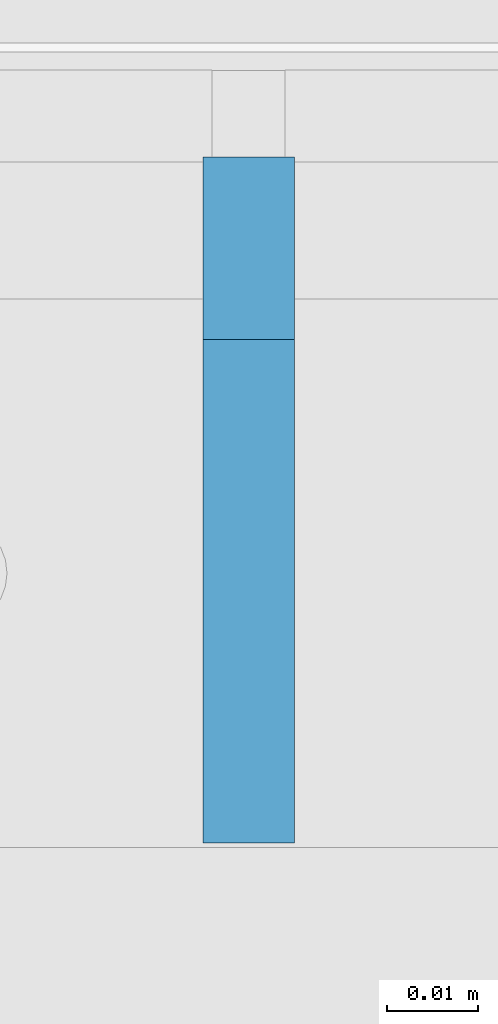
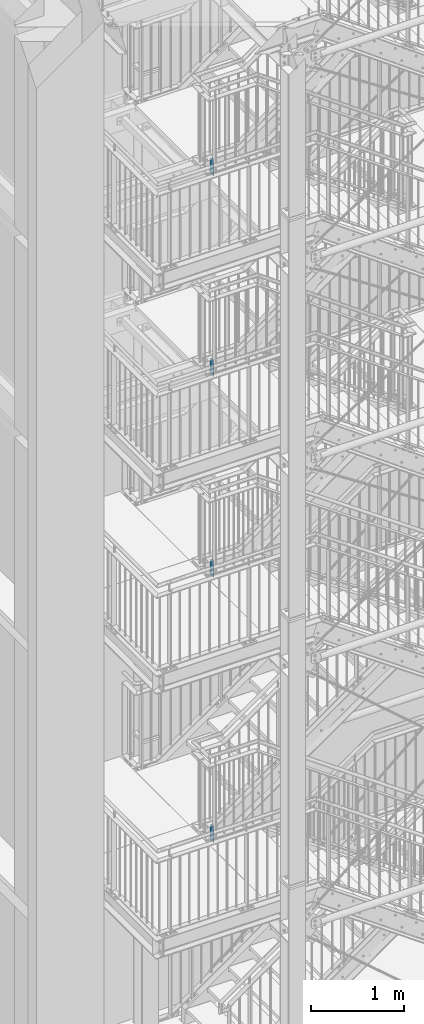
# One storey, part 164 of 821: 4 plates, 8 openings.
"""IFC2X3 building model written with IfcOpenShell, lengths in millimetres."""

from ifc_helpers import new_model, entity, si_unit, converted_unit, frame, origin, origin_with_axes, place, context, project, spatial, polyline, outline, extrude, material, layer, layer_set, element, save


model = new_model("IFC2X3")

# Units and contexts
model_context = context("Model", 3, precision=1e-09, world=origin_with_axes())
ifc_project = project(units=[si_unit("LENGTHUNIT", "METRE", prefix="MILLI"), si_unit("AREAUNIT", "SQUARE_METRE"), si_unit("VOLUMEUNIT", "CUBIC_METRE"), converted_unit("PLANEANGLEUNIT", "DEGREE", entity("IfcPlaneAngleMeasure", 0.01745329), si_unit("PLANEANGLEUNIT", "RADIAN"), dimensions=[0, 0, 0, 0, 0, 0, 0])], contexts=[model_context])

# Site, building, storey
site_placement = place(None, origin_with_axes())
site = spatial("IfcSite", under=ifc_project, at=site_placement, Name="Cnopf'sche Kinderklinik", CompositionType="ELEMENT")
building_placement = place(site_placement, origin_with_axes())
building = spatial("IfcBuilding", under=site, at=building_placement, Name="Struktur 1", CompositionType="ELEMENT")
storey_placement = place(building_placement, origin_with_axes())
storey = spatial("IfcBuildingStorey", under=building, at=storey_placement, Name="Default Storey", CompositionType="ELEMENT", Elevation=0.0)

# Plate, openings
ifc_material = material(Name="S235JR")
ifc_layer = layer(ifc_material, 10.0)
ifc_layer_set = layer_set([ifc_layer], Name="S235JR")
plate_1_placement = place(None, frame((4861.713402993, 6062.236971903, 3835.855265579), z_axis=(-1.0, 0.0, 0.0), x_axis=(0.0, 0.996815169, -0.079746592)))
plate_1 = element("IfcPlate", 1, at=plate_1_placement, inside=storey, material=ifc_layer_set, Name="Stiffener#1", ObjectType="Stiffener#1", context=model_context, shape_type="SweptSolid", body=[
    extrude(outline(polyline([(0.0, 0.0), (75.239625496, 0.0), (91.644322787, 205.05517107), (17.361672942, 217.017159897), (0.0, 0.0)])), origin_with_axes(), (0.0, 0.0, 1.0), 10.0),
])
opening_1_placement = place(plate_1_placement, frame((0.0, 0.0, -0.01), z_axis=(0.0, 0.0, 1.0), x_axis=(1.0, 0.0, 0.0)))
element("IfcOpeningElement", 2, at=opening_1_placement, cuts=plate_1, ObjectType="Opening", context=model_context, shape_type="SweptSolid", body=[
    extrude(outline(polyline([(91.644322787, 205.05517107), (71.898703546, 208.23487558), (90.049390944, 185.118867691), (91.644322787, 205.05517107)])), origin(), (0.0, 0.0, 1.0), 10.02),
])
opening_2_placement = place(plate_1_placement, frame((0.0, 0.0, -0.01), z_axis=(0.0, 0.0, 1.0), x_axis=(1.0, 0.0, 0.0)))
element("IfcOpeningElement", 3, at=opening_2_placement, cuts=plate_1, ObjectType="Opening", context=model_context, shape_type="SweptSolid", body=[
    extrude(outline(polyline([(75.239625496, 0.0), (76.83455734, 19.936303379), (55.239625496, 0.0), (75.239625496, 0.0)])), origin(), (0.0, 0.0, 1.0), 10.02),
])

plate_2_placement = place(None, frame((4861.713402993, 6062.236971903, 7308.855265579), z_axis=(-1.0, 0.0, 0.0), x_axis=(0.0, 0.996815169, -0.079746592)))
plate_2 = element("IfcPlate", 4, at=plate_2_placement, inside=storey, material=ifc_layer_set, Name="Stiffener#1", ObjectType="Stiffener#1", context=model_context, shape_type="SweptSolid", body=[
    extrude(outline(polyline([(0.0, 0.0), (75.239625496, 0.0), (91.644322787, 205.05517107), (17.361672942, 217.017159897), (0.0, 0.0)])), origin_with_axes(), (0.0, 0.0, 1.0), 10.0),
])
opening_3_placement = place(plate_2_placement, frame((0.0, 0.0, -0.01), z_axis=(0.0, 0.0, 1.0), x_axis=(1.0, 0.0, 0.0)))
element("IfcOpeningElement", 5, at=opening_3_placement, cuts=plate_2, ObjectType="Opening", context=model_context, shape_type="SweptSolid", body=[
    extrude(outline(polyline([(91.644322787, 205.05517107), (71.898703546, 208.23487558), (90.049390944, 185.118867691), (91.644322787, 205.05517107)])), origin(), (0.0, 0.0, 1.0), 10.02),
])
opening_4_placement = place(plate_2_placement, frame((0.0, 0.0, -0.01), z_axis=(0.0, 0.0, 1.0), x_axis=(1.0, 0.0, 0.0)))
element("IfcOpeningElement", 6, at=opening_4_placement, cuts=plate_2, ObjectType="Opening", context=model_context, shape_type="SweptSolid", body=[
    extrude(outline(polyline([(75.239625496, 0.0), (76.83455734, 19.936303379), (55.239625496, 0.0), (75.239625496, 0.0)])), origin(), (0.0, 0.0, 1.0), 10.02),
])

plate_3_placement = place(None, frame((4861.713402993, 6062.236971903, 9940.855265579), z_axis=(-1.0, 0.0, 0.0), x_axis=(0.0, 0.996815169, -0.079746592)))
plate_3 = element("IfcPlate", 7, at=plate_3_placement, inside=storey, material=ifc_layer_set, Name="Stiffener#1", ObjectType="Stiffener#1", context=model_context, shape_type="SweptSolid", body=[
    extrude(outline(polyline([(0.0, 0.0), (75.239625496, 0.0), (91.644322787, 205.05517107), (17.361672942, 217.017159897), (0.0, 0.0)])), origin_with_axes(), (0.0, 0.0, 1.0), 10.0),
])
opening_5_placement = place(plate_3_placement, frame((0.0, 0.0, -0.01), z_axis=(0.0, 0.0, 1.0), x_axis=(1.0, 0.0, 0.0)))
element("IfcOpeningElement", 8, at=opening_5_placement, cuts=plate_3, ObjectType="Opening", context=model_context, shape_type="SweptSolid", body=[
    extrude(outline(polyline([(91.644322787, 205.05517107), (71.898703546, 208.23487558), (90.049390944, 185.118867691), (91.644322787, 205.05517107)])), origin(), (0.0, 0.0, 1.0), 10.02),
])
opening_6_placement = place(plate_3_placement, frame((0.0, 0.0, -0.01), z_axis=(0.0, 0.0, 1.0), x_axis=(1.0, 0.0, 0.0)))
element("IfcOpeningElement", 9, at=opening_6_placement, cuts=plate_3, ObjectType="Opening", context=model_context, shape_type="SweptSolid", body=[
    extrude(outline(polyline([(75.239625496, 0.0), (76.83455734, 19.936303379), (55.239625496, 0.0), (75.239625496, 0.0)])), origin(), (0.0, 0.0, 1.0), 10.02),
])

plate_4_placement = place(None, frame((4861.713402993, 6062.236971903, 12567.855265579), z_axis=(-1.0, 0.0, 0.0), x_axis=(0.0, 0.996815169, -0.079746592)))
plate_4 = element("IfcPlate", 10, at=plate_4_placement, inside=storey, material=ifc_layer_set, Name="Stiffener#1", ObjectType="Stiffener#1", context=model_context, shape_type="SweptSolid", body=[
    extrude(outline(polyline([(0.0, 0.0), (75.239625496, 0.0), (91.644322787, 205.05517107), (17.361672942, 217.017159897), (0.0, 0.0)])), origin_with_axes(), (0.0, 0.0, 1.0), 10.0),
])
opening_7_placement = place(plate_4_placement, frame((0.0, 0.0, -0.01), z_axis=(0.0, 0.0, 1.0), x_axis=(1.0, 0.0, 0.0)))
element("IfcOpeningElement", 11, at=opening_7_placement, cuts=plate_4, ObjectType="Opening", context=model_context, shape_type="SweptSolid", body=[
    extrude(outline(polyline([(91.644322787, 205.05517107), (71.898703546, 208.23487558), (90.049390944, 185.118867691), (91.644322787, 205.05517107)])), origin(), (0.0, 0.0, 1.0), 10.02),
])
opening_8_placement = place(plate_4_placement, frame((0.0, 0.0, -0.01), z_axis=(0.0, 0.0, 1.0), x_axis=(1.0, 0.0, 0.0)))
element("IfcOpeningElement", 12, at=opening_8_placement, cuts=plate_4, ObjectType="Opening", context=model_context, shape_type="SweptSolid", body=[
    extrude(outline(polyline([(75.239625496, 0.0), (76.83455734, 19.936303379), (55.239625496, 0.0), (75.239625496, 0.0)])), origin(), (0.0, 0.0, 1.0), 10.02),
])

save(model, "model.ifc")
